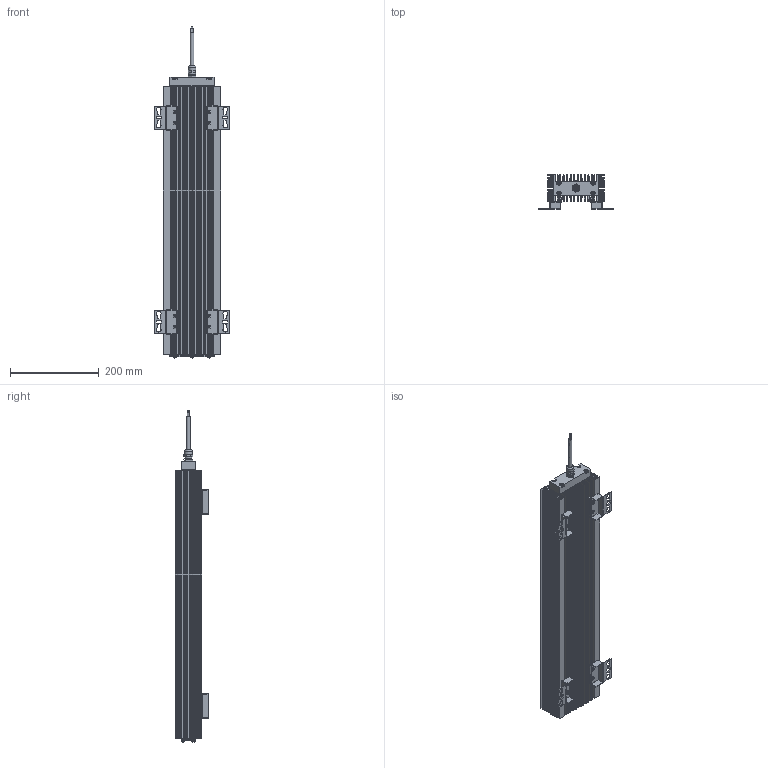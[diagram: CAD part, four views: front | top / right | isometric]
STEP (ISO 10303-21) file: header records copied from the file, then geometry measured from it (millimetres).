
FILE_DESCRIPTION(/* description */ ('IP65 Bremswiderstand'),/* implementation_level */ '2;1');
FILE_NAME(/* name */ '0000020731_AX2090-BW65-16xx.stp',/* time_stamp */ '2025-01-08T08:37:01+01:00',/* author */ ('JohannHe'),/* organization */ (''),/* preprocessor_version */ 'ST-DEVELOPER v20',/* originating_system */ 'Autodesk Inventor 2024',/* authorisation */ '');
FILE_SCHEMA (('AUTOMOTIVE_DESIGN { 1 0 10303 214 3 1 1 }'));
Products named in the file (1): 0000020731_AX2090-BW65-16xx
Bounding box: 170 x 76.5 x 748.24 mm (x, y, z)
Volume: 2022911.1 mm3; surface area: 2289502.9 mm2
Topology: 47 solids, 47 shells, 3979 faces, 11299 edges, 7432 vertices
Faces by surface type: cylinder 2216, plane 1670, cone 52, torus 23, sphere 18
Full cylindrical faces by diameter (mm): 1.5 x6, 2.5 x3, 3 x4, 4 x18, 4.5 x28, 5.5 x1, 8 x13, 9 x2, 14.5 x1, 15 x1, 16 x2, 17 x1
Entity records: 133812 total; most frequent: CARTESIAN_POINT 26527, DIRECTION 23293, ORIENTED_EDGE 22602, EDGE_CURVE 11301, AXIS2_PLACEMENT_3D 8320, VERTEX_POINT 7438, LINE 6653, VECTOR 6653
